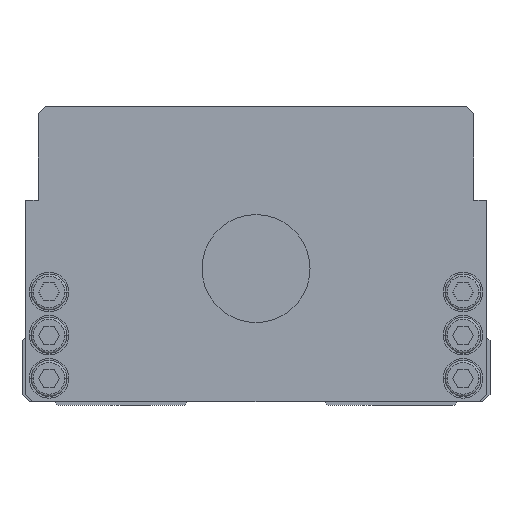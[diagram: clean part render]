
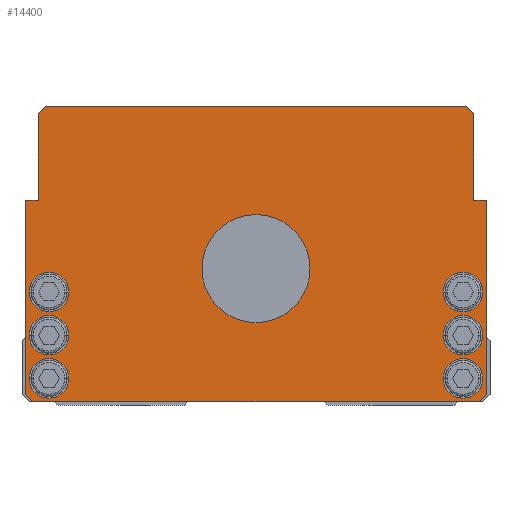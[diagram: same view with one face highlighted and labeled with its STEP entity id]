
A CAD part, front view. The second image highlights one B-rep face of the part: STEP entity #14400.
In plain terms, the highlighted planar face has unit normal (0, -1, 0).
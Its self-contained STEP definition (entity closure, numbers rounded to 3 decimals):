
#5260=VERTEX_POINT('',#15710);
#5468=EDGE_CURVE('',#15060,#11262,#15940,.T.);
#5736=VERTEX_POINT('',#16252);
#5980=EDGE_CURVE('',#14324,#14156,#16514,.T.);
#6130=EDGE_CURVE('',#9278,#8142,#16682,.T.);
#6158=EDGE_CURVE('',#13494,#11610,#16716,.T.);
#6668=EDGE_CURVE('',#15586,#8392,#17283,.T.);
#6676=EDGE_CURVE('',#8142,#9278,#17292,.T.);
#6768=VERTEX_POINT('',#17390);
#7666=VERTEX_POINT('',#18409);
#7938=EDGE_CURVE('',#11614,#15094,#18709,.T.);
#8142=VERTEX_POINT('',#18938);
#8392=VERTEX_POINT('',#19206);
#8916=VERTEX_POINT('',#19776);
#8936=EDGE_CURVE('',#8916,#15586,#19798,.T.);
#9214=EDGE_CURVE('',#10270,#10756,#20112,.T.);
#9228=EDGE_CURVE('',#14158,#7666,#20127,.T.);
#9278=VERTEX_POINT('',#20181);
#10270=VERTEX_POINT('',#21279);
#10702=EDGE_CURVE('',#6768,#14712,#21763,.T.);
#10756=VERTEX_POINT('',#21820);
#10908=VERTEX_POINT('',#21986);
#11008=EDGE_CURVE('',#5736,#11044,#22095,.T.);
#11044=VERTEX_POINT('',#22133);
#11262=VERTEX_POINT('',#22373);
#11482=VERTEX_POINT('',#22619);
#11610=VERTEX_POINT('',#22767);
#11614=VERTEX_POINT('',#22771);
#11752=EDGE_CURVE('',#14712,#11482,#22926,.T.);
#11766=EDGE_CURVE('',#8392,#12412,#22947,.T.);
#11864=EDGE_CURVE('',#14156,#14324,#23055,.T.);
#12044=EDGE_CURVE('',#11262,#6768,#23253,.T.);
#12412=VERTEX_POINT('',#23654);
#12692=EDGE_CURVE('',#15094,#11614,#23958,.T.);
#12720=EDGE_CURVE('',#11610,#13494,#23988,.T.);
#12812=EDGE_CURVE('',#10756,#10270,#24088,.T.);
#13494=VERTEX_POINT('',#24854);
#13502=EDGE_CURVE('',#15252,#10908,#24863,.T.);
#13608=EDGE_CURVE('',#10908,#15252,#24981,.T.);
#14156=VERTEX_POINT('',#25597);
#14158=VERTEX_POINT('',#25599);
#14268=EDGE_CURVE('',#5260,#15060,#25715,.T.);
#14324=VERTEX_POINT('',#25786);
#14400=ADVANCED_FACE('',(#25867,#25868,#25869,#25870,#25871,#25872,#25873,#25874),#25875,.T.);
#14424=EDGE_CURVE('',#11482,#5736,#25901,.T.);
#14564=EDGE_CURVE('',#11044,#8916,#26065,.T.);
#14712=VERTEX_POINT('',#26242);
#15060=VERTEX_POINT('',#26646);
#15074=EDGE_CURVE('',#12412,#5260,#26661,.T.);
#15094=VERTEX_POINT('',#26682);
#15252=VERTEX_POINT('',#26860);
#15522=EDGE_CURVE('',#7666,#14158,#27155,.T.);
#15586=VERTEX_POINT('',#27227);
#15710=CARTESIAN_POINT('',(-58.5,0.0,83.0));
#15940=LINE('',#27663,#27664);
#16252=CARTESIAN_POINT('',(62.0,0.0,1.0));
#16514=CIRCLE('',#28457,5.5);
#16682=CIRCLE('',#28694,5.5);
#16716=CIRCLE('',#28739,5.5);
#17283=LINE('',#29513,#29514);
#17292=CIRCLE('',#29527,5.5);
#17390=CARTESIAN_POINT('',(60.5,0.0,57.0));
#18409=CARTESIAN_POINT('',(-15.0,0.0,38.0));
#18709=CIRCLE('',#31449,5.5);
#18938=CARTESIAN_POINT('',(63.0,0.0,7.5));
#19206=CARTESIAN_POINT('',(-60.5,0.0,57.0));
#19776=CARTESIAN_POINT('',(-64.0,0.0,3.0));
#19798=LINE('',#32989,#32990);
#20112=CIRCLE('',#33402,5.5);
#20127=CIRCLE('',#33421,15.0);
#20181=CARTESIAN_POINT('',(52.0,0.0,7.5));
#21279=CARTESIAN_POINT('',(-63.0,0.0,7.5));
#21763=LINE('',#35718,#35719);
#21820=CARTESIAN_POINT('',(-52.0,0.0,7.5));
#21986=CARTESIAN_POINT('',(-52.0,0.0,31.5));
#22095=LINE('',#36171,#36172);
#22133=CARTESIAN_POINT('',(-62.0,0.0,1.0));
#22373=CARTESIAN_POINT('',(60.5,0.0,81.0));
#22619=CARTESIAN_POINT('',(64.0,0.0,3.0));
#22767=CARTESIAN_POINT('',(-52.0,0.0,19.5));
#22771=CARTESIAN_POINT('',(52.0,0.0,31.5));
#22926=LINE('',#37325,#37326);
#22947=LINE('',#37352,#37353);
#23055=CIRCLE('',#37504,5.5);
#23253=LINE('',#37788,#37789);
#23654=CARTESIAN_POINT('',(-60.5,0.0,81.0));
#23958=CIRCLE('',#38770,5.5);
#23988=CIRCLE('',#38815,5.5);
#24088=CIRCLE('',#38961,5.5);
#24854=CARTESIAN_POINT('',(-63.0,0.0,19.5));
#24863=CIRCLE('',#40003,5.5);
#24981=CIRCLE('',#40167,5.5);
#25597=CARTESIAN_POINT('',(52.0,0.0,19.5));
#25599=CARTESIAN_POINT('',(15.0,0.0,38.0));
#25715=LINE('',#41178,#41179);
#25786=CARTESIAN_POINT('',(63.0,0.0,19.5));
#25867=FACE_BOUND('',#41397,.T.);
#25868=FACE_BOUND('',#41398,.T.);
#25869=FACE_BOUND('',#41399,.T.);
#25870=FACE_BOUND('',#41400,.T.);
#25871=FACE_BOUND('',#41401,.T.);
#25872=FACE_BOUND('',#41402,.T.);
#25873=FACE_BOUND('',#41403,.T.);
#25874=FACE_OUTER_BOUND('',#41404,.T.);
#25875=PLANE('',#41405);
#25901=LINE('',#41439,#41440);
#26065=LINE('',#41663,#41664);
#26242=CARTESIAN_POINT('',(64.0,0.0,57.0));
#26646=CARTESIAN_POINT('',(58.5,0.0,83.0));
#26661=LINE('',#42480,#42481);
#26682=CARTESIAN_POINT('',(63.0,0.0,31.5));
#26860=CARTESIAN_POINT('',(-63.0,0.0,31.5));
#27155=CIRCLE('',#43175,15.0);
#27227=CARTESIAN_POINT('',(-64.0,0.0,57.0));
#27663=CARTESIAN_POINT('',(60.5,0.0,81.0));
#27664=VECTOR('',#43660,1.);
#28457=AXIS2_PLACEMENT_3D('',#44315,#44316,#44317);
#28694=AXIS2_PLACEMENT_3D('',#44503,#44504,#44505);
#28739=AXIS2_PLACEMENT_3D('',#44557,#44558,#44559);
#29513=CARTESIAN_POINT('',(-60.5,0.0,57.0));
#29514=VECTOR('',#45217,1.0);
#29527=AXIS2_PLACEMENT_3D('',#45232,#45233,#45234);
#31449=AXIS2_PLACEMENT_3D('',#47008,#47009,#47010);
#32989=CARTESIAN_POINT('',(-64.0,0.0,57.0));
#32990=VECTOR('',#48198,1.0);
#33402=AXIS2_PLACEMENT_3D('',#48580,#48581,#48582);
#33421=AXIS2_PLACEMENT_3D('',#48594,#48595,#48596);
#35718=CARTESIAN_POINT('',(64.0,0.0,57.0));
#35719=VECTOR('',#50407,1.0);
#36171=CARTESIAN_POINT('',(-62.0,0.0,1.0));
#36172=VECTOR('',#50734,1.0);
#37325=CARTESIAN_POINT('',(64.0,0.0,3.0));
#37326=VECTOR('',#51751,1.0);
#37352=CARTESIAN_POINT('',(-60.5,0.0,81.0));
#37353=VECTOR('',#51766,1.0);
#37504=AXIS2_PLACEMENT_3D('',#51895,#51896,#51897);
#37788=CARTESIAN_POINT('',(60.5,0.0,57.0));
#37789=VECTOR('',#52118,1.0);
#38770=AXIS2_PLACEMENT_3D('',#52858,#52859,#52860);
#38815=AXIS2_PLACEMENT_3D('',#52889,#52890,#52891);
#38961=AXIS2_PLACEMENT_3D('',#52999,#53000,#53001);
#40003=AXIS2_PLACEMENT_3D('',#53929,#53930,#53931);
#40167=AXIS2_PLACEMENT_3D('',#54070,#54071,#54072);
#41178=CARTESIAN_POINT('',(58.5,0.0,83.0));
#41179=VECTOR('',#54964,1.0);
#41397=EDGE_LOOP('',(#55138,#55139));
#41398=EDGE_LOOP('',(#55140,#55141));
#41399=EDGE_LOOP('',(#55142,#55143));
#41400=EDGE_LOOP('',(#55144,#55145));
#41401=EDGE_LOOP('',(#55146,#55147));
#41402=EDGE_LOOP('',(#55148,#55149));
#41403=EDGE_LOOP('',(#55150,#55151));
#41404=EDGE_LOOP('',(#55152,#55153,#55154,#55155,#55156,#55157,#55158,#55159,#55160,#55161,#55162,#55163));
#41405=AXIS2_PLACEMENT_3D('',#55164,#55165,#55166);
#41439=CARTESIAN_POINT('',(62.0,0.0,1.0));
#41440=VECTOR('',#55189,1.);
#41663=CARTESIAN_POINT('',(-64.0,0.0,3.0));
#41664=VECTOR('',#55401,1.);
#42480=CARTESIAN_POINT('',(-58.5,0.0,83.0));
#42481=VECTOR('',#56111,1.);
#43175=AXIS2_PLACEMENT_3D('',#56662,#56663,#56664);
#43660=DIRECTION('',(0.707,0.0,-0.707));
#44315=CARTESIAN_POINT('',(57.5,0.0,19.5));
#44316=DIRECTION('',(-0.0,1.0,0.0));
#44317=DIRECTION('',(1.0,0.0,0.0));
#44503=CARTESIAN_POINT('',(57.5,0.0,7.5));
#44504=DIRECTION('',(-0.0,1.0,0.0));
#44505=DIRECTION('',(1.0,0.0,0.0));
#44557=CARTESIAN_POINT('',(-57.5,0.0,19.5));
#44558=DIRECTION('',(-0.0,1.0,0.0));
#44559=DIRECTION('',(1.0,0.0,0.0));
#45217=DIRECTION('',(1.0,0.0,0.0));
#45232=CARTESIAN_POINT('',(57.5,0.0,7.5));
#45233=DIRECTION('',(-0.0,1.0,0.0));
#45234=DIRECTION('',(1.0,0.0,0.0));
#47008=CARTESIAN_POINT('',(57.5,0.0,31.5));
#47009=DIRECTION('',(-0.0,1.0,0.0));
#47010=DIRECTION('',(1.0,0.0,0.0));
#48198=DIRECTION('',(0.0,0.0,1.0));
#48580=CARTESIAN_POINT('',(-57.5,0.0,7.5));
#48581=DIRECTION('',(-0.0,1.0,0.0));
#48582=DIRECTION('',(1.0,0.0,0.0));
#48594=CARTESIAN_POINT('',(0.0,0.0,38.0));
#48595=DIRECTION('',(-0.0,1.0,0.0));
#48596=DIRECTION('',(1.0,0.0,0.0));
#50407=DIRECTION('',(1.0,0.0,0.0));
#50734=DIRECTION('',(-1.0,0.0,-0.0));
#51751=DIRECTION('',(-0.0,0.0,-1.0));
#51766=DIRECTION('',(0.0,0.0,1.0));
#51895=CARTESIAN_POINT('',(57.5,0.0,19.5));
#51896=DIRECTION('',(-0.0,1.0,0.0));
#51897=DIRECTION('',(1.0,0.0,0.0));
#52118=DIRECTION('',(-0.0,0.0,-1.0));
#52858=CARTESIAN_POINT('',(57.5,0.0,31.5));
#52859=DIRECTION('',(-0.0,1.0,0.0));
#52860=DIRECTION('',(1.0,0.0,0.0));
#52889=CARTESIAN_POINT('',(-57.5,0.0,19.5));
#52890=DIRECTION('',(-0.0,1.0,0.0));
#52891=DIRECTION('',(1.0,0.0,0.0));
#52999=CARTESIAN_POINT('',(-57.5,0.0,7.5));
#53000=DIRECTION('',(-0.0,1.0,0.0));
#53001=DIRECTION('',(1.0,0.0,0.0));
#53929=CARTESIAN_POINT('',(-57.5,0.0,31.5));
#53930=DIRECTION('',(-0.0,1.0,0.0));
#53931=DIRECTION('',(1.0,0.0,0.0));
#54070=CARTESIAN_POINT('',(-57.5,0.0,31.5));
#54071=DIRECTION('',(-0.0,1.0,0.0));
#54072=DIRECTION('',(1.0,0.0,0.0));
#54964=DIRECTION('',(1.0,0.0,0.0));
#55138=ORIENTED_EDGE('',*,*,#9228,.T.);
#55139=ORIENTED_EDGE('',*,*,#15522,.T.);
#55140=ORIENTED_EDGE('',*,*,#12692,.T.);
#55141=ORIENTED_EDGE('',*,*,#7938,.T.);
#55142=ORIENTED_EDGE('',*,*,#5980,.T.);
#55143=ORIENTED_EDGE('',*,*,#11864,.T.);
#55144=ORIENTED_EDGE('',*,*,#6676,.T.);
#55145=ORIENTED_EDGE('',*,*,#6130,.T.);
#55146=ORIENTED_EDGE('',*,*,#13608,.T.);
#55147=ORIENTED_EDGE('',*,*,#13502,.T.);
#55148=ORIENTED_EDGE('',*,*,#12720,.T.);
#55149=ORIENTED_EDGE('',*,*,#6158,.T.);
#55150=ORIENTED_EDGE('',*,*,#12812,.T.);
#55151=ORIENTED_EDGE('',*,*,#9214,.T.);
#55152=ORIENTED_EDGE('',*,*,#14564,.F.);
#55153=ORIENTED_EDGE('',*,*,#11008,.F.);
#55154=ORIENTED_EDGE('',*,*,#14424,.F.);
#55155=ORIENTED_EDGE('',*,*,#11752,.F.);
#55156=ORIENTED_EDGE('',*,*,#10702,.F.);
#55157=ORIENTED_EDGE('',*,*,#12044,.F.);
#55158=ORIENTED_EDGE('',*,*,#5468,.F.);
#55159=ORIENTED_EDGE('',*,*,#14268,.F.);
#55160=ORIENTED_EDGE('',*,*,#15074,.F.);
#55161=ORIENTED_EDGE('',*,*,#11766,.F.);
#55162=ORIENTED_EDGE('',*,*,#6668,.F.);
#55163=ORIENTED_EDGE('',*,*,#8936,.F.);
#55164=CARTESIAN_POINT('',(0.,0.0,41.562));
#55165=DIRECTION('',(0.0,-1.0,0.0));
#55166=DIRECTION('',(1.0,0.0,0.0));
#55189=DIRECTION('',(-0.707,0.0,-0.707));
#55401=DIRECTION('',(-0.707,0.0,0.707));
#56111=DIRECTION('',(0.707,0.0,0.707));
#56662=CARTESIAN_POINT('',(0.0,0.0,38.0));
#56663=DIRECTION('',(-0.0,1.0,0.0));
#56664=DIRECTION('',(1.0,0.0,0.0));
